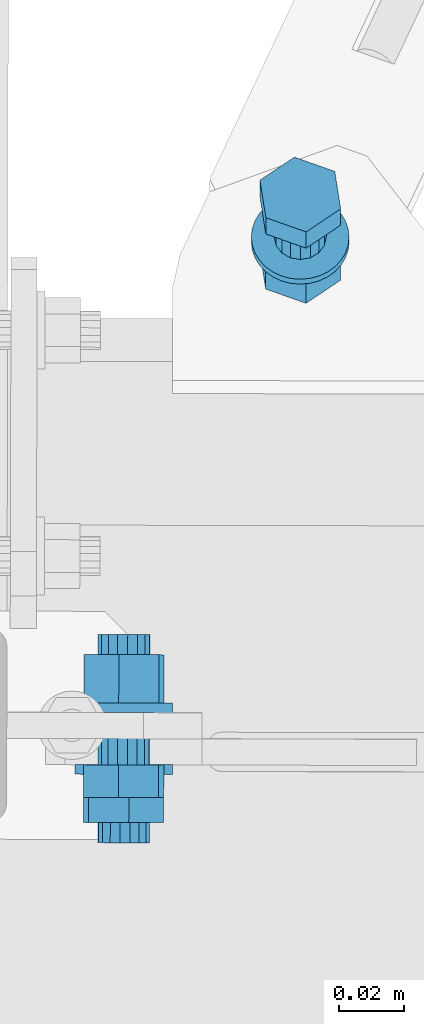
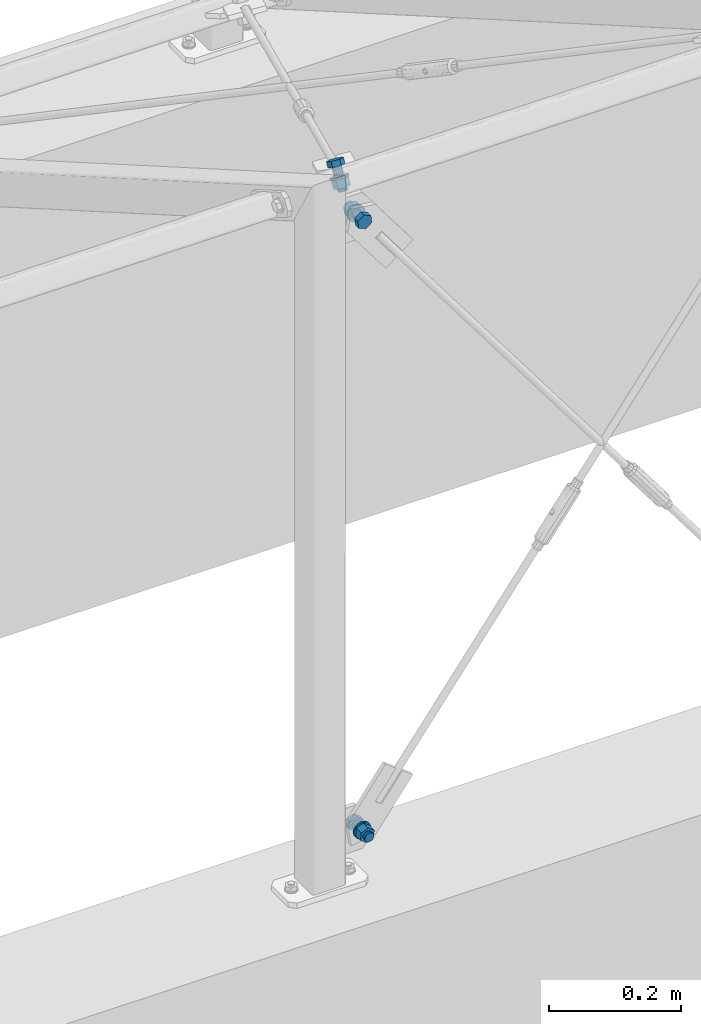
# One storey, part 195 of 288: 3 mechanical fasteners.
"""IFC2X3 building model written with IfcOpenShell, lengths in millimetres."""

import ifcopenshell
import ifcopenshell.guid

model = None  # the IFC model being written
_history = None  # IfcOwnerHistory: only IFC2X3 demands one
_inside = {}  # id of a spatial element -> (the spatial element, [elements in it])
_under = {}  # id of a project, library or spatial element -> (it, [spatial elements below it])
_declared = {}  # id of a project -> (the project, [libraries it declares])
_typed = {}  # id of a type object -> (the type object, [elements of that type])
_made_of = {}  # id of a material, layer set ... -> (it, [elements and type objects made of it])


def new_model(schema):
    """Start an empty IFC model of exactly this schema.

    Asked for "IFC4X3", IfcOpenShell would pick the latest addendum, in which some entities
    have other attributes; the version numbers below select the first issue.
    IFC2X3 requires an IfcOwnerHistory on every rooted entity: one is made here for all.
    """
    global model, _history
    if schema == "IFC4X3":
        model = ifcopenshell.file(schema_version=(4, 3, 0, 0))
    else:
        model = ifcopenshell.file(schema=schema)
    _inside.clear()
    _under.clear()
    _declared.clear()
    _typed.clear()
    _made_of.clear()
    _history = None
    if model.schema == "IFC2X3":
        org = make("IfcOrganization", Name="unknown")
        user = make(
            "IfcPersonAndOrganization",
            ThePerson=make("IfcPerson", FamilyName="unknown"),
            TheOrganization=org,
        )
        app = make(
            "IfcApplication",
            ApplicationDeveloper=org,
            Version="unknown",
            ApplicationFullName="unknown",
            ApplicationIdentifier="unknown",
        )
        _history = make(
            "IfcOwnerHistory",
            OwningUser=user,
            OwningApplication=app,
            ChangeAction="ADDED",
            CreationDate=0,
        )
    return model


def make(cls, **values):
    """One entity of the class cls with the attributes given. An attribute that is None is left unset."""
    return model.create_entity(
        cls, **{name: value for name, value in values.items() if value is not None}
    )


def entity(cls, *values):
    """Any entity or typed value of the class cls, its attributes in the order of the schema. None: left unset."""
    e = model.create_entity(cls)
    for i, value in enumerate(values):
        if value is not None:
            e[i] = value
    return e


def rooted(cls, **values):
    """An entity with a GlobalId (a new one), such as an element, a storey or a relation."""
    return make(cls, GlobalId=ifcopenshell.guid.new(), OwnerHistory=_history, **values)


def si_unit(unit_type, name, prefix=None):
    """IfcSIUnit, for example si_unit("LENGTHUNIT", "METRE", prefix="MILLI")."""
    return make("IfcSIUnit", UnitType=unit_type, Prefix=prefix, Name=name)


def converted_unit(unit_type, name, factor, base, dimensions=None, offset=None):
    """IfcConversionBasedUnit, such as the inch: factor (a typed value) times the base unit."""
    return make(
        "IfcConversionBasedUnit"
        if offset is None
        else "IfcConversionBasedUnitWithOffset",
        ConversionOffset=offset,
        Dimensions=None
        if dimensions is None
        else entity("IfcDimensionalExponents", *dimensions),
        UnitType=unit_type,
        Name=name,
        ConversionFactor=make(
            "IfcMeasureWithUnit", ValueComponent=factor, UnitComponent=base
        ),
    )


def assignment(units):
    """IfcUnitAssignment: the units of a project."""
    return None if units is None else make("IfcUnitAssignment", Units=units)


def point(xyz):
    """IfcCartesianPoint."""
    return None if xyz is None else make("IfcCartesianPoint", Coordinates=xyz)


def direction(xyz):
    """IfcDirection."""
    return None if xyz is None else make("IfcDirection", DirectionRatios=xyz)


def frame(location, z_axis=None, x_axis=None):
    """IfcAxis2Placement3D, a coordinate frame: its origin and axes. An axis left out is left unset."""
    return make(
        "IfcAxis2Placement3D",
        Location=point(location),
        Axis=direction(z_axis),
        RefDirection=direction(x_axis),
    )


def origin_with_axes():
    """The frame at (0, 0, 0) with the z axis (0, 0, 1) and the x axis (1, 0, 0) written out."""
    return frame((0.0, 0.0, 0.0), z_axis=(0.0, 0.0, 1.0), x_axis=(1.0, 0.0, 0.0))


def place(relative_to, where):
    """IfcLocalPlacement: puts the frame where relative to a parent placement (None: the world)."""
    return make(
        "IfcLocalPlacement", PlacementRelTo=relative_to, RelativePlacement=where
    )


def context(
    kind, dimensions, precision=None, world=None, true_north=None, identifier=None
):
    """IfcGeometricRepresentationContext, for example the 3D "Model" context."""
    return make(
        "IfcGeometricRepresentationContext",
        ContextIdentifier=identifier,
        ContextType=kind,
        CoordinateSpaceDimension=dimensions,
        Precision=precision,
        WorldCoordinateSystem=world,
        TrueNorth=true_north,
    )


def project(units=None, contexts=None):
    """IfcProject with its units and contexts."""
    return rooted(
        "IfcProject",
        Name="project",
        RepresentationContexts=contexts,
        UnitsInContext=assignment(units),
    )


def spatial(cls, under=None, at=None, **own):
    """A site, building, storey or space (cls), placed at a placement, below another one or the project."""
    s = rooted(cls, ObjectPlacement=at, **own)
    if under is not None:
        _under.setdefault(under.id(), (under, []))[1].append(s)
    return s


def faces_of(points, faces, orient=None, outer=None):
    """IfcFace entities. A face is a list of loops; a loop is a list of indices into points, from 0.

    orient and outer hold one flag for each loop. By default every Orientation is true, the
    first loop of a face is its IfcFaceOuterBound and the others are IfcFaceBound.
    """
    made = []
    for i, loops in enumerate(faces):
        bounds = []
        for j, loop in enumerate(loops):
            is_outer = j == 0 if outer is None else outer[i][j]
            bounds.append(
                make(
                    "IfcFaceOuterBound" if is_outer else "IfcFaceBound",
                    Bound=make("IfcPolyLoop", Polygon=[points[k] for k in loop]),
                    Orientation=True if orient is None else orient[i][j],
                )
            )
        made.append(make("IfcFace", Bounds=bounds))
    return made


def faceted_brep(points, faces, orient=None, outer=None, voids=None):
    """IfcFacetedBrep: a solid bounded by flat faces; with voids (closed shells), ...WithVoids."""
    shared = [point(p) for p in points]
    hull = make("IfcClosedShell", CfsFaces=faces_of(shared, faces, orient, outer))
    if voids is None:
        return make("IfcFacetedBrep", Outer=hull)
    return make(
        "IfcFacetedBrepWithVoids",
        Outer=hull,
        Voids=[
            make(cls, CfsFaces=faces_of(shared, fs, o, b)) for cls, fs, o, b in voids
        ],
    )


def shape(context_of_items, identifier, shape_type, items):
    """IfcShapeRepresentation: the items that make up one representation, for example the "Body"."""
    return make(
        "IfcShapeRepresentation",
        ContextOfItems=context_of_items,
        RepresentationIdentifier=identifier,
        RepresentationType=shape_type,
        Items=items,
    )


def made_of(thing, what):
    """Note that an element or type object is made of a material, layer set ...; save() writes the relation."""
    if what is not None:
        _made_of.setdefault(what.id(), (what, []))[1].append(thing)
    return thing


def element(
    cls,
    number,
    at=None,
    inside=None,
    cuts=None,
    type_object=None,
    material=None,
    context=None,
    identifier="Body",
    shape_type=None,
    held_by="IfcProductDefinitionShape",
    body=None,
    shapes=None,
    **own,
):
    """One element of the class cls, such as IfcWall. Its Tag is "e" and its number.

    at: its placement. inside: the storey or other place that contains it. cuts: it is an
    opening in that element (IfcRelVoidsElement). A single representation is given by context,
    identifier, shape_type and body (its items); several are given by shapes. held_by: the class
    of the entity that holds the representations. save() writes the other relations.
    """
    e = rooted(cls, Tag="e%d" % number, ObjectPlacement=at, **own)
    if body is not None:
        shapes = [shape(context, identifier, shape_type, body)]
    if shapes is not None:
        e.Representation = make(held_by, Representations=shapes)
    if inside is not None:
        _inside.setdefault(inside.id(), (inside, []))[1].append(e)
    if cuts is not None:
        rooted(
            "IfcRelVoidsElement", RelatingBuildingElement=cuts, RelatedOpeningElement=e
        )
    if type_object is not None:
        _typed.setdefault(type_object.id(), (type_object, []))[1].append(e)
    return made_of(e, material)


def aggregate(whole, parts):
    """IfcRelAggregates: a whole, such as a stair, and the parts it consists of."""
    return rooted("IfcRelAggregates", RelatingObject=whole, RelatedObjects=parts)


def save(model, path):
    """Write the relations noted so far, then the file.

    IfcRelAggregates (storeys below a building ...), IfcRelContainedInSpatialStructure (elements
    in a storey), IfcRelDefinesByType, IfcRelAssociatesMaterial and IfcRelDeclares: one each for
    every whole, place, type object, material and project.
    """
    for whole, parts in _under.values():
        aggregate(whole, parts)
    for where, things in _inside.values():
        rooted(
            "IfcRelContainedInSpatialStructure",
            RelatedElements=things,
            RelatingStructure=where,
        )
    for kind, things in _typed.values():
        rooted("IfcRelDefinesByType", RelatedObjects=things, RelatingType=kind)
    for what, things in _made_of.values():
        rooted("IfcRelAssociatesMaterial", RelatedObjects=things, RelatingMaterial=what)
    for by, libraries in _declared.values():
        rooted("IfcRelDeclares", RelatingContext=by, RelatedDefinitions=libraries)
    model.write(path)


model = new_model("IFC2X3")

# Units and contexts
model_context = context("Model", 3, precision=1e-09, world=origin_with_axes())
ifc_project = project(units=[si_unit("LENGTHUNIT", "METRE", prefix="MILLI"), si_unit("AREAUNIT", "SQUARE_METRE"), si_unit("VOLUMEUNIT", "CUBIC_METRE"), converted_unit("PLANEANGLEUNIT", "DEGREE", entity("IfcPlaneAngleMeasure", 0.01745329), si_unit("PLANEANGLEUNIT", "RADIAN"), dimensions=[0, 0, 0, 0, 0, 0, 0])], contexts=[model_context])

# Site, building, storey
site_placement = place(None, origin_with_axes())
site = spatial("IfcSite", under=ifc_project, at=site_placement, Name="Remont ?wietlik?w nad MC w NCPP w Opolu", CompositionType="ELEMENT")
building_placement = place(site_placement, origin_with_axes())
building = spatial("IfcBuilding", under=site, at=building_placement, Name="Konstrukcja 1", CompositionType="ELEMENT")
storey_placement = place(building_placement, origin_with_axes())
storey = spatial("IfcBuildingStorey", under=building, at=storey_placement, Name="Default Storey", CompositionType="ELEMENT", Elevation=0.0)

# Mechanical fasteners
mechanical_fastener_1_placement = place(None, origin_with_axes())
element("IfcMechanicalFastener", 1, at=mechanical_fastener_1_placement, inside=storey, ObjectType="Bolt#1", NominalDiameter=16.0, NominalLength=40.0, context=model_context, shape_type="Brep", body=[
    faceted_brep([(2030.597784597, -125.485601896, 101.479891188), (2030.621347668, -115.485629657, 101.479891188), (2018.330264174, -115.456668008, 96.205514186), (2018.306701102, -125.456640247, 96.205514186), (2016.752454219, -115.452950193, 82.923905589), (2016.728891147, -125.452922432, 82.923905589), (2027.465727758, -115.478194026, 74.916673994), (2027.442164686, -125.478166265, 74.916673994), (2039.756811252, -115.507155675, 80.191050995), (2039.733248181, -125.507127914, 80.191050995), (2041.334621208, -115.51087349, 93.472659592), (2041.311058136, -125.510845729, 93.472659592)], [[[0, 1, 2, 3]], [[3, 2, 4, 5]], [[5, 4, 6, 7]], [[7, 6, 8, 9]], [[9, 8, 10, 11]], [[11, 10, 1, 0]], [[4, 2, 1, 10, 8, 6]], [[0, 3, 5, 7, 9, 11]]]),
    faceted_brep([(2024.230615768, -125.470598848, 81.790325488), (2024.192914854, -141.470554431, 81.790325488), (2022.105270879, -141.465635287, 84.110915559), (2022.142971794, -125.465679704, 84.110915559), (2021.064588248, -141.463183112, 87.053770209), (2021.102289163, -125.46322753, 87.053770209), (2021.229301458, -141.463571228, 90.170866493), (2021.267002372, -125.463615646, 90.170866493), (2022.574334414, -141.466740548, 92.98765476), (2022.612035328, -125.466784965, 92.98765476), (2024.894918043, -141.472208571, 95.07530453), (2024.932618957, -125.472252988, 95.07530453), (2027.837764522, -141.47914284, 96.11599005), (2027.875465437, -125.479187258, 96.11599005), (2030.954852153, -141.486487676, 95.951276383), (2030.992553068, -125.486532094, 95.951276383), (2033.771632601, -141.493124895, 94.606239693), (2033.809333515, -125.493169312, 94.606239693), (2035.859276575, -141.498044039, 92.285649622), (2035.896977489, -125.498088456, 92.285649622), (2036.899959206, -141.500496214, 89.342794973), (2036.93766012, -125.500540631, 89.342794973), (2036.735245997, -141.500108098, 86.225698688), (2036.772946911, -125.500152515, 86.225698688), (2035.39021304, -141.496938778, 83.408910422), (2035.427913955, -125.496983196, 83.408910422), (2033.069629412, -141.491470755, 81.321260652), (2033.107330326, -125.491515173, 81.321260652), (2030.126782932, -141.484536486, 80.280575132), (2030.164483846, -125.484580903, 80.280575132), (2027.009695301, -141.477191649, 80.445288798), (2027.047396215, -125.477236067, 80.445288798)], [[[0, 1, 2, 3]], [[3, 2, 4, 5]], [[5, 4, 6, 7]], [[7, 6, 8, 9]], [[9, 8, 10, 11]], [[11, 10, 12, 13]], [[13, 12, 14, 15]], [[15, 14, 16, 17]], [[17, 16, 18, 19]], [[19, 18, 20, 21]], [[21, 20, 22, 23]], [[23, 22, 24, 25]], [[25, 24, 26, 27]], [[27, 26, 28, 29]], [[29, 28, 30, 31]], [[31, 30, 1, 0]], [[0, 3, 5, 7, 9, 11, 13, 15, 17, 19, 21, 23, 25, 27, 29, 31]], [[1, 30, 28, 26, 24, 22, 20, 18, 16, 14, 12, 10, 8, 6, 4, 2]]]),
    faceted_brep([(2020.002225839, -141.460679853, 76.183363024), (2019.995156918, -144.460671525, 76.183363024), (2017.823718, -144.455554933, 78.166151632), (2017.830786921, -141.455563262, 78.166151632), (2016.080824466, -144.45144813, 80.534469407), (2016.087893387, -141.451456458, 80.534469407), (2014.833454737, -144.448508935, 83.197303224), (2014.840523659, -141.448517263, 83.197303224), (2014.129544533, -144.446850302, 86.052321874), (2014.136613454, -141.44685863, 86.052321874), (2013.996144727, -144.44653597, 88.989808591), (2014.003213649, -141.446544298, 88.989808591), (2014.4383818, -144.447578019, 91.896877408), (2014.445450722, -141.447586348, 91.896877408), (2015.439260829, -144.449936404, 94.6618113), (2015.44632975, -141.449944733, 94.6618113), (2016.960318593, -144.453520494, 97.178355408), (2016.967387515, -141.453528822, 97.178355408), (2018.943101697, -144.458192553, 99.349800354), (2018.950170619, -141.458200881, 99.349800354), (2021.311412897, -144.463773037, 101.092698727), (2021.318481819, -141.463781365, 101.092698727), (2023.974239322, -144.470047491, 102.340071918), (2023.981308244, -141.470055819, 102.340071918), (2026.829250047, -144.476774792, 103.043984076), (2026.836318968, -141.47678312, 103.043984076), (2029.766728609, -144.483696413, 103.177384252), (2029.77379753, -141.483704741, 103.177384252), (2032.673789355, -144.49054636, 102.735145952), (2032.680858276, -141.490554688, 102.735145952), (2035.438715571, -144.497061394, 101.734264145), (2035.445784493, -141.497069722, 101.734264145), (2037.955252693, -144.502991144, 100.213202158), (2037.962321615, -141.502999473, 100.213202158), (2040.126691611, -144.508107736, 98.230413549), (2040.133760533, -141.508116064, 98.230413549), (2041.869585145, -144.51221454, 95.862095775), (2041.876654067, -141.512222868, 95.862095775), (2043.116954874, -144.515153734, 93.199261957), (2043.124023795, -141.515162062, 93.199261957), (2043.820865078, -144.516812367, 90.344243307), (2043.827934, -141.516820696, 90.344243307), (2043.954264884, -144.517126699, 87.40675659), (2043.961333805, -141.517135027, 87.40675659), (2043.512027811, -144.51608465, 84.499687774), (2043.519096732, -141.516092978, 84.499687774), (2042.511148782, -144.513726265, 81.734753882), (2042.518217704, -141.513734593, 81.734753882), (2040.990091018, -144.510142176, 79.218209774), (2040.997159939, -141.510150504, 79.218209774), (2039.007307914, -144.505470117, 77.046764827), (2039.014376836, -141.505478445, 77.046764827), (2036.638996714, -144.499889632, 75.303866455), (2036.646065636, -141.499897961, 75.303866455), (2033.976170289, -144.493615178, 74.056493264), (2033.98323921, -141.493623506, 74.056493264), (2031.121159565, -144.486887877, 73.352581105), (2031.128228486, -141.486896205, 73.352581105), (2028.183681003, -144.479966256, 73.219180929), (2028.190749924, -141.479974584, 73.219180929), (2025.276620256, -144.473116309, 73.66141923), (2025.283689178, -141.473124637, 73.66141923), (2022.51169404, -144.466601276, 74.662301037), (2022.518762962, -141.466609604, 74.662301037)], [[[0, 1, 2, 3]], [[3, 2, 4, 5]], [[5, 4, 6, 7]], [[7, 6, 8, 9]], [[9, 8, 10, 11]], [[11, 10, 12, 13]], [[13, 12, 14, 15]], [[15, 14, 16, 17]], [[17, 16, 18, 19]], [[19, 18, 20, 21]], [[21, 20, 22, 23]], [[23, 22, 24, 25]], [[25, 24, 26, 27]], [[27, 26, 28, 29]], [[29, 28, 30, 31]], [[31, 30, 32, 33]], [[33, 32, 34, 35]], [[35, 34, 36, 37]], [[37, 36, 38, 39]], [[39, 38, 40, 41]], [[41, 40, 42, 43]], [[43, 42, 44, 45]], [[45, 44, 46, 47]], [[47, 46, 48, 49]], [[49, 48, 50, 51]], [[51, 50, 52, 53]], [[53, 52, 54, 55]], [[55, 54, 56, 57]], [[57, 56, 58, 59]], [[59, 58, 60, 61]], [[61, 60, 62, 63]], [[63, 62, 1, 0]], [[0, 3, 5, 7, 9, 11, 13, 15, 17, 19, 21, 23, 25, 27, 29, 31, 33, 35, 37, 39, 41, 43, 45, 47, 49, 51, 53, 55, 57, 59, 61, 63]], [[1, 62, 60, 58, 56, 54, 52, 50, 48, 46, 44, 42, 40, 38, 36, 34, 32, 30, 28, 26, 24, 22, 20, 18, 16, 14, 12, 10, 8, 6, 4, 2]]]),
    faceted_brep([(2030.518141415, -159.285508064, 101.479891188), (2030.553014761, -144.48554915, 101.479891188), (2018.261931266, -144.456587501, 96.205514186), (2018.22705792, -159.256546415, 96.205514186), (2016.684121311, -144.452869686, 82.923905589), (2016.649247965, -159.2528286, 82.923905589), (2027.39739485, -144.478113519, 74.916673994), (2027.362521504, -159.278072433, 74.916673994), (2039.688478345, -144.507075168, 80.191050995), (2039.653604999, -159.307034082, 80.191050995), (2041.2662883, -144.510792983, 93.472659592), (2041.231414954, -159.310751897, 93.472659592)], [[[0, 1, 2, 3]], [[3, 2, 4, 5]], [[5, 4, 6, 7]], [[7, 6, 8, 9]], [[9, 8, 10, 11]], [[11, 10, 1, 0]], [[4, 2, 1, 10, 8, 6]], [[0, 3, 5, 7, 9, 11]]]),
    faceted_brep([(2024.150972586, -159.270505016, 81.790325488), (2024.136363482, -165.470487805, 81.790325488), (2022.048719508, -165.465568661, 84.110915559), (2022.063328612, -159.265585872, 84.110915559), (2021.008036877, -165.463116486, 87.053770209), (2021.022645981, -159.263133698, 87.053770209), (2021.172750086, -165.463504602, 90.170866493), (2021.18735919, -159.263521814, 90.170866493), (2022.517783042, -165.466673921, 92.98765476), (2022.532392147, -159.266691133, 92.98765476), (2024.838366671, -165.472141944, 95.07530453), (2024.852975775, -159.272159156, 95.07530453), (2027.781213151, -165.479076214, 96.11599005), (2027.795822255, -159.279093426, 96.11599005), (2030.898300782, -165.48642105, 95.951276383), (2030.912909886, -159.286438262, 95.951276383), (2033.715081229, -165.493058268, 94.606239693), (2033.729690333, -159.29307548, 94.606239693), (2035.802725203, -165.497977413, 92.285649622), (2035.817334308, -159.297994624, 92.285649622), (2036.843407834, -165.500429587, 89.342794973), (2036.858016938, -159.300446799, 89.342794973), (2036.678694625, -165.500041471, 86.225698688), (2036.693303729, -159.300058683, 86.225698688), (2035.333661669, -165.496872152, 83.408910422), (2035.348270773, -159.296889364, 83.408910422), (2033.01307804, -165.491404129, 81.321260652), (2033.027687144, -159.291421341, 81.321260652), (2030.07023156, -165.484469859, 80.280575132), (2030.084840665, -159.284487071, 80.280575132), (2026.953143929, -165.477125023, 80.445288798), (2026.967753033, -159.277142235, 80.445288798)], [[[0, 1, 2, 3]], [[3, 2, 4, 5]], [[5, 4, 6, 7]], [[7, 6, 8, 9]], [[9, 8, 10, 11]], [[11, 10, 12, 13]], [[13, 12, 14, 15]], [[15, 14, 16, 17]], [[17, 16, 18, 19]], [[19, 18, 20, 21]], [[21, 20, 22, 23]], [[23, 22, 24, 25]], [[25, 24, 26, 27]], [[27, 26, 28, 29]], [[29, 28, 30, 31]], [[31, 30, 1, 0]], [[0, 3, 5, 7, 9, 11, 13, 15, 17, 19, 21, 23, 25, 27, 29, 31]], [[1, 30, 28, 26, 24, 22, 20, 18, 16, 14, 12, 10, 8, 6, 4, 2]]]),
])
mechanical_fastener_2_placement = place(None, origin_with_axes())
element("IfcMechanicalFastener", 2, at=mechanical_fastener_2_placement, inside=storey, ObjectType="Bolt#1", NominalDiameter=16.0, NominalLength=40.0, context=model_context, shape_type="Brep", body=[
    faceted_brep([(2030.560659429, -141.564888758, 1203.52010904), (2030.538984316, -151.564865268, 1203.52010904), (2018.247895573, -151.538224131, 1208.794486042), (2018.269570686, -141.538247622, 1208.794486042), (2016.670084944, -151.534804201, 1222.076094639), (2016.691760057, -141.534827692, 1222.076094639), (2027.383363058, -151.558025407, 1230.083326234), (2027.405038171, -141.558048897, 1230.083326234), (2039.674451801, -151.584666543, 1224.808949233), (2039.696126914, -141.584690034, 1224.808949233), (2041.25226243, -151.588086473, 1211.527340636), (2041.273937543, -141.588109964, 1211.527340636)], [[[0, 1, 2, 3]], [[3, 2, 4, 5]], [[5, 4, 6, 7]], [[7, 6, 8, 9]], [[9, 8, 10, 11]], [[11, 10, 1, 0]], [[4, 2, 1, 10, 8, 6]], [[0, 3, 5, 7, 9, 11]]]),
    faceted_brep([(2024.193487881, -141.55108781, 1223.20967474), (2024.228168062, -125.551125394, 1223.20967474), (2022.140523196, -125.54660039, 1220.889084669), (2022.105843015, -141.546562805, 1220.889084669), (2021.099840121, -125.544344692, 1217.94623002), (2021.06515994, -141.544307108, 1217.94623002), (2021.2645534, -125.544701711, 1214.829133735), (2021.22987322, -141.544664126, 1214.829133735), (2022.609586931, -125.547617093, 1212.012345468), (2022.57490675, -141.547579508, 1212.012345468), (2024.930171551, -125.552646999, 1209.924695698), (2024.89549137, -141.552609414, 1209.924695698), (2027.873019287, -125.559025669, 1208.884010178), (2027.838339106, -141.558988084, 1208.884010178), (2030.990108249, -125.565782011, 1209.048723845), (2030.955428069, -141.565744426, 1209.048723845), (2033.806889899, -125.571887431, 1210.393760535), (2033.772209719, -141.571849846, 1210.393760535), (2035.894534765, -125.576412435, 1212.714350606), (2035.859854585, -141.576374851, 1212.714350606), (2036.935217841, -125.578668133, 1215.657205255), (2036.90053766, -141.578630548, 1215.657205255), (2036.770504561, -125.578311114, 1218.77430154), (2036.73582438, -141.578273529, 1218.77430154), (2035.42547103, -125.575395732, 1221.591089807), (2035.39079085, -141.575358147, 1221.591089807), (2033.104886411, -125.570365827, 1223.678739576), (2033.07020623, -141.570328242, 1223.678739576), (2030.162038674, -125.563987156, 1224.719425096), (2030.127358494, -141.563949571, 1224.719425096), (2027.044949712, -125.557230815, 1224.55471143), (2027.010269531, -141.55719323, 1224.55471143)], [[[0, 1, 2, 3]], [[3, 2, 4, 5]], [[5, 4, 6, 7]], [[7, 6, 8, 9]], [[9, 8, 10, 11]], [[11, 10, 12, 13]], [[13, 12, 14, 15]], [[15, 14, 16, 17]], [[17, 16, 18, 19]], [[19, 18, 20, 21]], [[21, 20, 22, 23]], [[23, 22, 24, 25]], [[25, 24, 26, 27]], [[27, 26, 28, 29]], [[29, 28, 30, 31]], [[31, 30, 1, 0]], [[0, 3, 5, 7, 9, 11, 13, 15, 17, 19, 21, 23, 25, 27, 29, 31]], [[1, 30, 28, 26, 24, 22, 20, 18, 16, 14, 12, 10, 8, 6, 4, 2]]]),
    faceted_brep([(2020.037477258, -125.542042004, 1228.816637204), (2020.043979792, -122.542049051, 1228.816637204), (2017.872539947, -122.537342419, 1226.833848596), (2017.866037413, -125.537335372, 1226.833848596), (2016.129645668, -122.533564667, 1224.465530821), (2016.123143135, -125.53355762, 1224.465530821), (2014.882275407, -122.530860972, 1221.802697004), (2014.875772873, -125.530853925, 1221.802697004), (2014.178364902, -122.529335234, 1218.947678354), (2014.171862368, -125.529328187, 1218.947678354), (2014.04496504, -122.529046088, 1216.010191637), (2014.038462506, -125.529039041, 1216.010191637), (2014.487202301, -122.530004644, 1213.10312282), (2014.480699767, -125.529997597, 1213.10312282), (2015.488081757, -122.532174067, 1210.338188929), (2015.481579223, -125.53216702, 1210.338188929), (2017.009140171, -122.535470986, 1207.82164482), (2017.002637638, -125.535463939, 1207.82164482), (2018.991924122, -122.539768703, 1205.650199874), (2018.985421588, -125.539761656, 1205.650199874), (2021.360236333, -122.544902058, 1203.907301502), (2021.353733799, -125.544895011, 1203.907301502), (2024.023063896, -122.550673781, 1202.65992831), (2024.016561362, -125.550666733, 1202.65992831), (2026.878075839, -122.556862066, 1201.956016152), (2026.871573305, -125.556855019, 1201.956016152), (2029.815555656, -122.563229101, 1201.822615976), (2029.809053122, -125.563222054, 1201.822615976), (2032.722617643, -122.569530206, 1202.264854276), (2032.716115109, -125.569523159, 1202.264854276), (2035.48754504, -122.575523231, 1203.265736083), (2035.481042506, -125.575516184, 1203.265736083), (2038.004083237, -122.580977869, 1204.786798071), (2037.997580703, -125.580970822, 1204.786798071), (2040.175523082, -122.585684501, 1206.769586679), (2040.169020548, -125.585677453, 1206.769586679), (2041.918417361, -122.589462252, 1209.137904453), (2041.911914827, -125.589455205, 1209.137904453), (2043.165787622, -122.592165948, 1211.800738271), (2043.159285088, -125.592158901, 1211.800738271), (2043.869698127, -122.593691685, 1214.655756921), (2043.863195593, -125.593684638, 1214.655756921), (2044.003097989, -122.593980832, 1217.593243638), (2043.996595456, -125.593973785, 1217.593243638), (2043.560860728, -122.593022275, 1220.500312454), (2043.554358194, -125.593015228, 1220.500312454), (2042.559981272, -122.590852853, 1223.265246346), (2042.553478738, -125.590845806, 1223.265246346), (2041.038922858, -122.587555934, 1225.781790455), (2041.032420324, -125.587548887, 1225.781790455), (2039.056138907, -122.583258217, 1227.953235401), (2039.049636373, -125.58325117, 1227.953235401), (2036.687826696, -122.578124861, 1229.696133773), (2036.681324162, -125.578117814, 1229.696133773), (2034.024999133, -122.572353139, 1230.943506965), (2034.018496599, -125.572346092, 1230.943506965), (2031.16998719, -122.566164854, 1231.647419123), (2031.163484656, -125.566157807, 1231.647419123), (2028.232507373, -122.559797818, 1231.780819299), (2028.22600484, -125.559790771, 1231.780819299), (2025.325445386, -122.553496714, 1231.338580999), (2025.318942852, -125.553489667, 1231.338580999), (2022.560517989, -122.547503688, 1230.337699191), (2022.554015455, -125.547496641, 1230.337699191)], [[[0, 1, 2, 3]], [[3, 2, 4, 5]], [[5, 4, 6, 7]], [[7, 6, 8, 9]], [[9, 8, 10, 11]], [[11, 10, 12, 13]], [[13, 12, 14, 15]], [[15, 14, 16, 17]], [[17, 16, 18, 19]], [[19, 18, 20, 21]], [[21, 20, 22, 23]], [[23, 22, 24, 25]], [[25, 24, 26, 27]], [[27, 26, 28, 29]], [[29, 28, 30, 31]], [[31, 30, 32, 33]], [[33, 32, 34, 35]], [[35, 34, 36, 37]], [[37, 36, 38, 39]], [[39, 38, 40, 41]], [[41, 40, 42, 43]], [[43, 42, 44, 45]], [[45, 44, 46, 47]], [[47, 46, 48, 49]], [[49, 48, 50, 51]], [[51, 50, 52, 53]], [[53, 52, 54, 55]], [[55, 54, 56, 57]], [[57, 56, 58, 59]], [[59, 58, 60, 61]], [[61, 60, 62, 63]], [[63, 62, 1, 0]], [[0, 3, 5, 7, 9, 11, 13, 15, 17, 19, 21, 23, 25, 27, 29, 31, 33, 35, 37, 39, 41, 43, 45, 47, 49, 51, 53, 55, 57, 59, 61, 63]], [[1, 62, 60, 58, 56, 54, 52, 50, 48, 46, 44, 42, 40, 38, 36, 34, 32, 30, 28, 26, 24, 22, 20, 18, 16, 14, 12, 10, 8, 6, 4, 2]]]),
    faceted_brep([(2030.633921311, -107.764968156, 1203.52010904), (2030.601842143, -122.56493339, 1203.52010904), (2018.3107534, -122.538292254, 1208.794486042), (2018.342832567, -107.73832702, 1208.794486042), (2016.732942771, -122.534872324, 1222.076094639), (2016.765021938, -107.73490709, 1222.076094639), (2027.446220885, -122.558093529, 1230.083326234), (2027.478300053, -107.758128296, 1230.083326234), (2039.737309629, -122.584734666, 1224.808949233), (2039.769388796, -107.784769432, 1224.808949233), (2041.315120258, -122.588154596, 1211.527340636), (2041.347199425, -107.788189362, 1211.527340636)], [[[0, 1, 2, 3]], [[3, 2, 4, 5]], [[5, 4, 6, 7]], [[7, 6, 8, 9]], [[9, 8, 10, 11]], [[11, 10, 1, 0]], [[4, 2, 1, 10, 8, 6]], [[0, 3, 5, 7, 9, 11]]]),
    faceted_brep([(2024.266749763, -107.751167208, 1223.20967474), (2024.280188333, -101.551181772, 1223.20967474), (2022.192543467, -101.546656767, 1220.889084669), (2022.179104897, -107.746642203, 1220.889084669), (2021.151860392, -101.54440107, 1217.94623002), (2021.138421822, -107.744386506, 1217.94623002), (2021.316573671, -101.544758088, 1214.829133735), (2021.303135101, -107.744743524, 1214.829133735), (2022.661607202, -101.547673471, 1212.012345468), (2022.648168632, -107.747658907, 1212.012345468), (2024.982191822, -101.552703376, 1209.924695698), (2024.968753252, -107.752688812, 1209.924695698), (2027.925039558, -101.559082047, 1208.884010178), (2027.911600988, -107.759067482, 1208.884010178), (2031.04212852, -101.565838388, 1209.048723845), (2031.02868995, -107.765823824, 1209.048723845), (2033.85891017, -101.571943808, 1210.393760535), (2033.8454716, -107.771929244, 1210.393760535), (2035.946555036, -101.576468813, 1212.714350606), (2035.933116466, -107.776454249, 1212.714350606), (2036.987238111, -101.57872451, 1215.657205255), (2036.973799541, -107.778709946, 1215.657205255), (2036.822524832, -101.578367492, 1218.77430154), (2036.809086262, -107.778352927, 1218.77430154), (2035.477491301, -101.575452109, 1221.591089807), (2035.464052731, -107.775437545, 1221.591089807), (2033.156906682, -101.570422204, 1223.678739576), (2033.143468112, -107.77040764, 1223.678739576), (2030.214058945, -101.564043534, 1224.719425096), (2030.200620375, -107.764028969, 1224.719425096), (2027.096969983, -101.557287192, 1224.55471143), (2027.083531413, -107.757272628, 1224.55471143)], [[[0, 1, 2, 3]], [[3, 2, 4, 5]], [[5, 4, 6, 7]], [[7, 6, 8, 9]], [[9, 8, 10, 11]], [[11, 10, 12, 13]], [[13, 12, 14, 15]], [[15, 14, 16, 17]], [[17, 16, 18, 19]], [[19, 18, 20, 21]], [[21, 20, 22, 23]], [[23, 22, 24, 25]], [[25, 24, 26, 27]], [[27, 26, 28, 29]], [[29, 28, 30, 31]], [[31, 30, 1, 0]], [[0, 3, 5, 7, 9, 11, 13, 15, 17, 19, 21, 23, 25, 27, 29, 31]], [[1, 30, 28, 26, 24, 22, 20, 18, 16, 14, 12, 10, 8, 6, 4, 2]]]),
])
mechanical_fastener_3_placement = place(None, origin_with_axes())
element("IfcMechanicalFastener", 3, at=mechanical_fastener_3_placement, inside=storey, ObjectType="Bolt#1", NominalDiameter=16.0, NominalLength=40.0, context=model_context, shape_type="Brep", body=[
    faceted_brep([(2093.717265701, 35.500762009, 1188.466229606), (2093.728537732, 40.500746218, 1197.126485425), (2095.540015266, 29.023353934, 1203.750580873), (2095.528743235, 24.023369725, 1195.090325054), (2084.969399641, 21.932515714, 1207.858222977), (2084.95812761, 16.932531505, 1199.197967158), (2072.587306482, 26.319069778, 1205.341769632), (2072.576034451, 21.319085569, 1196.681513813), (2070.775828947, 37.796462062, 1198.717674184), (2070.764556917, 32.796477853, 1190.057418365), (2081.346444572, 44.887300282, 1194.610032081), (2081.335172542, 39.887316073, 1185.949776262)], [[[0, 1, 2, 3]], [[3, 2, 4, 5]], [[5, 4, 6, 7]], [[7, 6, 8, 9]], [[9, 8, 10, 11]], [[11, 10, 1, 0]], [[4, 2, 1, 10, 8, 6]], [[0, 3, 5, 7, 9, 11]]]),
    faceted_brep([(2080.121848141, 21.997738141, 1196.279873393), (2080.103812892, 13.997763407, 1182.423464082), (2083.168258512, 13.481802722, 1182.717364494), (2083.186293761, 21.481777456, 1196.573773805), (2086.226668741, 14.020589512, 1182.402316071), (2086.24470399, 22.020564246, 1196.258725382), (2088.813428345, 15.532098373, 1181.52628208), (2088.831463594, 23.532073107, 1195.382691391), (2090.534726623, 17.786215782, 1180.222630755), (2090.552761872, 25.786190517, 1194.079040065), (2091.128511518, 20.439772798, 1178.689831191), (2091.146546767, 28.439747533, 1192.546240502), (2090.50438466, 23.088789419, 1177.161238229), (2090.522419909, 31.088764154, 1191.017647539), (2088.757363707, 25.329976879, 1175.869566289), (2088.775398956, 33.329951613, 1189.7259756), (2086.153416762, 26.822134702, 1175.011460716), (2086.171452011, 34.822109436, 1188.867870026), (2083.088971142, 27.338095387, 1174.717560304), (2083.107006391, 35.338070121, 1188.573969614), (2080.030560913, 26.799308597, 1175.032608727), (2080.048596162, 34.799283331, 1188.889018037), (2077.44380131, 25.287799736, 1175.908642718), (2077.461836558, 33.28777447, 1189.765052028), (2075.722503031, 23.033682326, 1177.212294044), (2075.74053828, 31.033657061, 1191.068703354), (2075.128718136, 20.380125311, 1178.745093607), (2075.146753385, 28.380100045, 1192.601502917), (2075.752844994, 17.731108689, 1180.273686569), (2075.770880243, 25.731083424, 1194.13009588), (2077.499865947, 15.48992123, 1181.565358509), (2077.517901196, 23.489895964, 1195.42176782)], [[[0, 1, 2, 3]], [[3, 2, 4, 5]], [[5, 4, 6, 7]], [[7, 6, 8, 9]], [[9, 8, 10, 11]], [[11, 10, 12, 13]], [[13, 12, 14, 15]], [[15, 14, 16, 17]], [[17, 16, 18, 19]], [[19, 18, 20, 21]], [[21, 20, 22, 23]], [[23, 22, 24, 25]], [[25, 24, 26, 27]], [[27, 26, 28, 29]], [[29, 28, 30, 31]], [[31, 30, 1, 0]], [[0, 3, 5, 7, 9, 11, 13, 15, 17, 19, 21, 23, 25, 27, 29, 31]], [[1, 30, 28, 26, 24, 22, 20, 18, 16, 14, 12, 10, 8, 6, 4, 2]]]),
    faceted_brep([(2077.4571112, 8.387100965, 1185.666215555), (2077.453729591, 6.887105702, 1183.06813881), (2080.271819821, 6.15837454, 1183.485202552), (2080.27520143, 7.658369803, 1186.083279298), (2083.199565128, 5.919679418, 1183.619202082), (2083.202946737, 7.419674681, 1186.217278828), (2086.124453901, 6.180193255, 1183.464987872), (2086.127835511, 7.680188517, 1186.063064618), (2088.934084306, 6.92990465, 1183.028486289), (2088.937465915, 8.429899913, 1185.626563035), (2091.520483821, 8.140002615, 1182.326471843), (2091.52386543, 9.639997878, 1184.924548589), (2093.784258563, 9.763983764, 1181.385922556), (2093.787640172, 11.263979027, 1183.983999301), (2095.638412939, 11.739439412, 1180.242983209), (2095.641794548, 13.239434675, 1182.841059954), (2097.011692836, 13.990453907, 1178.94157632), (2097.015074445, 15.490449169, 1181.539653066), (2097.851323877, 16.430522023, 1177.531714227), (2097.854705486, 17.930517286, 1180.129790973), (2098.125039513, 18.965873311, 1176.067577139), (2098.128421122, 20.465868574, 1178.665653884), (2097.822321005, 21.499075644, 1174.605431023), (2097.825702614, 22.999070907, 1177.203507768), (2096.954801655, 23.932779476, 1173.201465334), (2096.958183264, 25.432774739, 1175.79954208), (2095.555819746, 26.173458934, 1171.909633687), (2095.559201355, 27.673454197, 1174.507710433), (2093.679137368, 28.135005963, 1170.779580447), (2093.682518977, 29.635001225, 1173.377657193), (2091.396874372, 29.74203941, 1169.854732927), (2091.400255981, 31.242034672, 1172.452809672), (2088.796736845, 30.932801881, 1169.170632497), (2088.800118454, 32.432797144, 1171.768709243), (2085.978646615, 31.661533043, 1168.753568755), (2085.982028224, 33.161528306, 1171.3516455), (2083.050901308, 31.900228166, 1168.619569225), (2083.054282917, 33.400223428, 1171.217645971), (2080.126012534, 31.639714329, 1168.773783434), (2080.129394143, 33.139709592, 1171.37186018), (2077.31638213, 30.890002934, 1169.210285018), (2077.319763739, 32.389998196, 1171.808361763), (2074.729982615, 29.679904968, 1169.912299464), (2074.733364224, 31.179900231, 1172.51037621), (2072.466207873, 28.055923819, 1170.852848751), (2072.469589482, 29.555919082, 1173.450925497), (2070.612053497, 26.080468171, 1171.995788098), (2070.615435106, 27.580463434, 1174.593864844), (2069.2387736, 23.829453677, 1173.297194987), (2069.242155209, 25.329448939, 1175.895271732), (2068.399142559, 21.389385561, 1174.70705708), (2068.402524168, 22.889380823, 1177.305133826), (2068.125426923, 18.854034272, 1176.171194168), (2068.128808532, 20.354029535, 1178.769270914), (2068.428145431, 16.320831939, 1177.633340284), (2068.43152704, 17.820827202, 1180.23141703), (2069.295664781, 13.887128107, 1179.037305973), (2069.29904639, 15.38712337, 1181.635382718), (2070.69464669, 11.64644865, 1180.32913762), (2070.698028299, 13.146443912, 1182.927214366), (2072.571329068, 9.684901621, 1181.45919086), (2072.574710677, 11.184896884, 1184.057267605), (2074.853592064, 8.077868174, 1182.38403838), (2074.856973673, 9.577863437, 1184.982115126)], [[[0, 1, 2, 3]], [[3, 2, 4, 5]], [[5, 4, 6, 7]], [[7, 6, 8, 9]], [[9, 8, 10, 11]], [[11, 10, 12, 13]], [[13, 12, 14, 15]], [[15, 14, 16, 17]], [[17, 16, 18, 19]], [[19, 18, 20, 21]], [[21, 20, 22, 23]], [[23, 22, 24, 25]], [[25, 24, 26, 27]], [[27, 26, 28, 29]], [[29, 28, 30, 31]], [[31, 30, 32, 33]], [[33, 32, 34, 35]], [[35, 34, 36, 37]], [[37, 36, 38, 39]], [[39, 38, 40, 41]], [[41, 40, 42, 43]], [[43, 42, 44, 45]], [[45, 44, 46, 47]], [[47, 46, 48, 49]], [[49, 48, 50, 51]], [[51, 50, 52, 53]], [[53, 52, 54, 55]], [[55, 54, 56, 57]], [[57, 56, 58, 59]], [[59, 58, 60, 61]], [[61, 60, 62, 63]], [[63, 62, 1, 0]], [[0, 3, 5, 7, 9, 11, 13, 15, 17, 19, 21, 23, 25, 27, 29, 31, 33, 35, 37, 39, 41, 43, 45, 47, 49, 51, 53, 55, 57, 59, 61, 63]], [[1, 62, 60, 58, 56, 54, 52, 50, 48, 46, 44, 42, 40, 38, 36, 34, 32, 30, 28, 26, 24, 22, 20, 18, 16, 14, 12, 10, 8, 6, 4, 2]]]),
    faceted_brep([(2093.679166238, 18.600815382, 1159.194564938), (2093.695848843, 26.000792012, 1172.01174355), (2095.507326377, 14.523399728, 1178.635838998), (2095.490643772, 7.123423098, 1165.818660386), (2084.936710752, 7.432561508, 1182.743481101), (2084.920028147, 0.032584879, 1169.926302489), (2072.554617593, 11.819115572, 1180.227027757), (2072.537934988, 4.419138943, 1167.409849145), (2070.743140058, 23.296507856, 1173.602932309), (2070.726457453, 15.896531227, 1160.785753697), (2081.313755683, 30.387346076, 1169.495290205), (2081.297073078, 22.987369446, 1156.678111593)], [[[0, 1, 2, 3]], [[3, 2, 4, 5]], [[5, 4, 6, 7]], [[7, 6, 8, 9]], [[9, 8, 10, 11]], [[11, 10, 1, 0]], [[4, 2, 1, 10, 8, 6]], [[0, 3, 5, 7, 9, 11]]]),
    faceted_brep([(2080.083748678, 5.097791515, 1167.008208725), (2080.076760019, 1.997801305, 1161.638850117), (2083.141205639, 1.48184062, 1161.932750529), (2083.148194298, 4.58183083, 1167.302109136), (2086.199615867, 2.020627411, 1161.617702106), (2086.206604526, 5.12061762, 1166.987060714), (2088.786375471, 3.532136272, 1160.741668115), (2088.79336413, 6.632126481, 1166.111026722), (2090.50767375, 5.786253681, 1159.438016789), (2090.514662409, 8.886243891, 1164.807375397), (2091.101458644, 8.439810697, 1157.905217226), (2091.108447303, 11.539800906, 1163.274575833), (2090.477331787, 11.088827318, 1156.376624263), (2090.484320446, 14.188817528, 1161.745982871), (2088.730310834, 13.330014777, 1155.084952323), (2088.737299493, 16.430004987, 1160.454310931), (2086.126363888, 14.822172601, 1154.22684675), (2086.133352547, 17.92216281, 1159.596205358), (2083.061918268, 15.338133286, 1153.932946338), (2083.068906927, 18.438123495, 1159.302304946), (2080.00350804, 14.799346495, 1154.247994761), (2080.010496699, 17.899336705, 1159.617353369), (2077.416748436, 13.287837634, 1155.124028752), (2077.423737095, 16.387827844, 1160.49338736), (2075.695450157, 11.033720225, 1156.427680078), (2075.702438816, 14.133710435, 1161.797038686), (2075.101665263, 8.380163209, 1157.960479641), (2075.108653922, 11.480153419, 1163.329838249), (2075.725792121, 5.731146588, 1159.489072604), (2075.73278078, 8.831136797, 1164.858431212), (2077.472813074, 3.489959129, 1160.780744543), (2077.479801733, 6.589949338, 1166.150103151)], [[[0, 1, 2, 3]], [[3, 2, 4, 5]], [[5, 4, 6, 7]], [[7, 6, 8, 9]], [[9, 8, 10, 11]], [[11, 10, 12, 13]], [[13, 12, 14, 15]], [[15, 14, 16, 17]], [[17, 16, 18, 19]], [[19, 18, 20, 21]], [[21, 20, 22, 23]], [[23, 22, 24, 25]], [[25, 24, 26, 27]], [[27, 26, 28, 29]], [[29, 28, 30, 31]], [[31, 30, 1, 0]], [[0, 3, 5, 7, 9, 11, 13, 15, 17, 19, 21, 23, 25, 27, 29, 31]], [[1, 30, 28, 26, 24, 22, 20, 18, 16, 14, 12, 10, 8, 6, 4, 2]]]),
])

save(model, "model.ifc")
